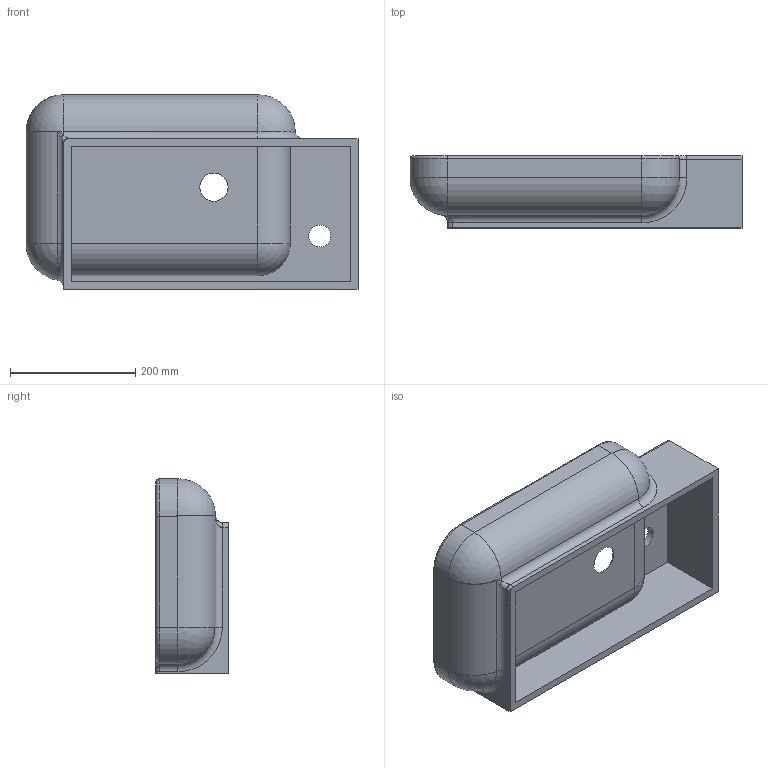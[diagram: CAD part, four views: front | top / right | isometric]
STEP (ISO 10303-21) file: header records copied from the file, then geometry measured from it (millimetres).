
FILE_DESCRIPTION (( 'STEP AP203' ), '1' );
FILE_NAME ('TP027.STEP', '2018-10-16T11:07:18', ( '' ), ( '' ), 'SwSTEP 2.0', 'SolidWorks 2018', '' );
FILE_SCHEMA (( 'CONFIG_CONTROL_DESIGN' ));
Length unit declared in the file: millimetre
Products named in the file (1): TP027
Bounding box: 530 x 115 x 310.57 mm (x, y, z)
Volume: 4477108.9 mm3; surface area: 652889.1 mm2
Topology: 1 solids, 1 shells, 81 faces, 190 edges, 108 vertices
Faces by surface type: cylinder 33, plane 21, torus 14, sphere 8, bspline 3, cone 2
Entity records: 2519 total; most frequent: CARTESIAN_POINT 576, DIRECTION 425, ORIENTED_EDGE 370, EDGE_CURVE 185, AXIS2_PLACEMENT_3D 169, VERTEX_POINT 108, CIRCLE 90, EDGE_LOOP 87
